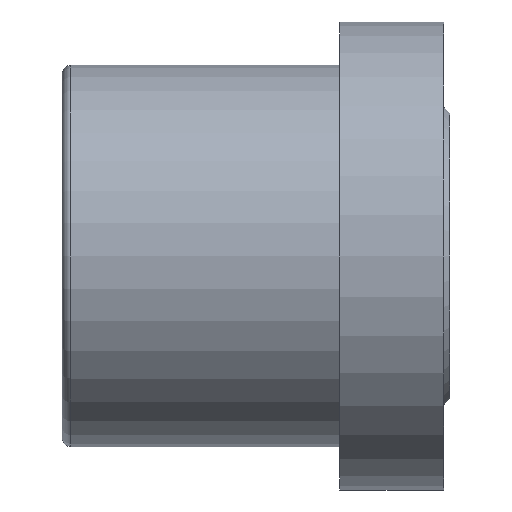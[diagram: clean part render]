
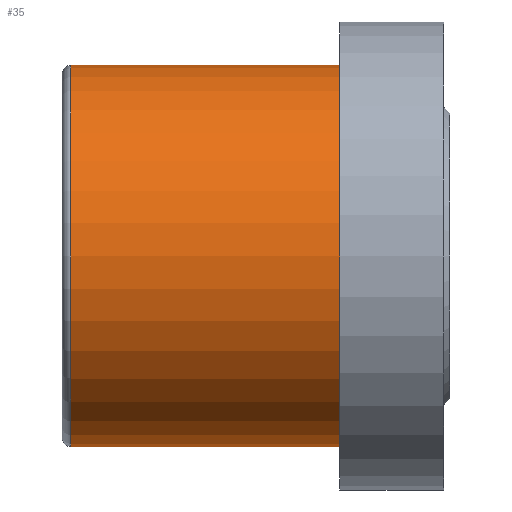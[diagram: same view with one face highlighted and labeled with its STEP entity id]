
A CAD part, left-side view. The second image highlights one B-rep face of the part: STEP entity #35.
In plain terms, the highlighted cylindrical face has radius 11 mm (diameter 22 mm), a partial arc.
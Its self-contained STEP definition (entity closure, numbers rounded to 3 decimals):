
#2 = CARTESIAN_POINT ( 'NONE',  ( 0., 0., 11. ) ) ;
#3 = AXIS2_PLACEMENT_3D ( 'NONE', #8, #58, #63 ) ;
#8 = CARTESIAN_POINT ( 'NONE',  ( 0., 15.5, 0. ) ) ;
#19 = EDGE_CURVE ( 'NONE', #281, #39, #403, .T. ) ;
#21 = DIRECTION ( 'NONE',  ( 0., 0., -1. ) ) ;
#35 = ADVANCED_FACE ( 'NONE', ( #257 ), #188, .T. ) ;
#39 = VERTEX_POINT ( 'NONE', #430 ) ;
#45 = ORIENTED_EDGE ( 'NONE', *, *, #69, .F. ) ;
#58 = DIRECTION ( 'NONE',  ( 0., -1., 0. ) ) ;
#63 = DIRECTION ( 'NONE',  ( 0., 0., -1. ) ) ;
#68 = CARTESIAN_POINT ( 'NONE',  ( 0., 15.5, -11. ) ) ;
#69 = EDGE_CURVE ( 'NONE', #309, #39, #277, .T. ) ;
#76 = EDGE_CURVE ( 'NONE', #289, #281, #459, .T. ) ;
#96 = CARTESIAN_POINT ( 'NONE',  ( 0., 0., 11. ) ) ;
#104 = ORIENTED_EDGE ( 'NONE', *, *, #76, .T. ) ;
#107 = CARTESIAN_POINT ( 'NONE',  ( 0., 15.5, 11. ) ) ;
#113 = EDGE_LOOP ( 'NONE', ( #238, #104, #355, #45 ) ) ;
#115 = VECTOR ( 'NONE', #149, 1000. ) ;
#129 = VECTOR ( 'NONE', #169, 1000. ) ;
#149 = DIRECTION ( 'NONE',  ( 0., -1., 0. ) ) ;
#169 = DIRECTION ( 'NONE',  ( 0., -1., 0. ) ) ;
#171 = DIRECTION ( 'NONE',  ( 0., 0., -1. ) ) ;
#188 = CYLINDRICAL_SURFACE ( 'NONE', #496, 11. ) ;
#195 = DIRECTION ( 'NONE',  ( 0., -1., 0. ) ) ;
#238 = ORIENTED_EDGE ( 'NONE', *, *, #295, .F. ) ;
#257 = FACE_OUTER_BOUND ( 'NONE', #113, .T. ) ;
#277 = CIRCLE ( 'NONE', #423, 11. ) ;
#281 = VERTEX_POINT ( 'NONE', #68 ) ;
#289 = VERTEX_POINT ( 'NONE', #107 ) ;
#295 = EDGE_CURVE ( 'NONE', #289, #309, #415, .T. ) ;
#309 = VERTEX_POINT ( 'NONE', #96 ) ;
#314 = CARTESIAN_POINT ( 'NONE',  ( 0., 0., -11. ) ) ;
#316 = CARTESIAN_POINT ( 'NONE',  ( 0., 0., 0. ) ) ;
#355 = ORIENTED_EDGE ( 'NONE', *, *, #19, .T. ) ;
#371 = DIRECTION ( 'NONE',  ( 0., -1., 0. ) ) ;
#403 = LINE ( 'NONE', #314, #129 ) ;
#415 = LINE ( 'NONE', #2, #115 ) ;
#423 = AXIS2_PLACEMENT_3D ( 'NONE', #316, #195, #21 ) ;
#430 = CARTESIAN_POINT ( 'NONE',  ( 0., 0., -11. ) ) ;
#437 = CARTESIAN_POINT ( 'NONE',  ( 0., 0., 0. ) ) ;
#459 = CIRCLE ( 'NONE', #3, 11. ) ;
#496 = AXIS2_PLACEMENT_3D ( 'NONE', #437, #371, #171 ) ;
